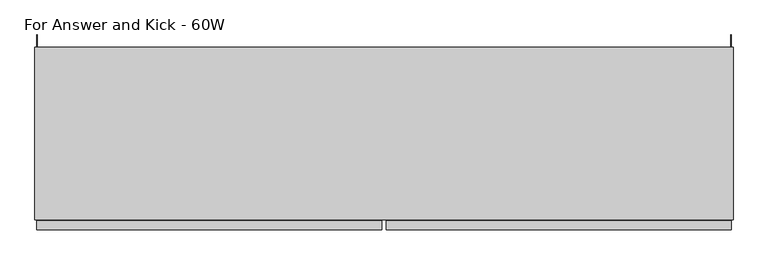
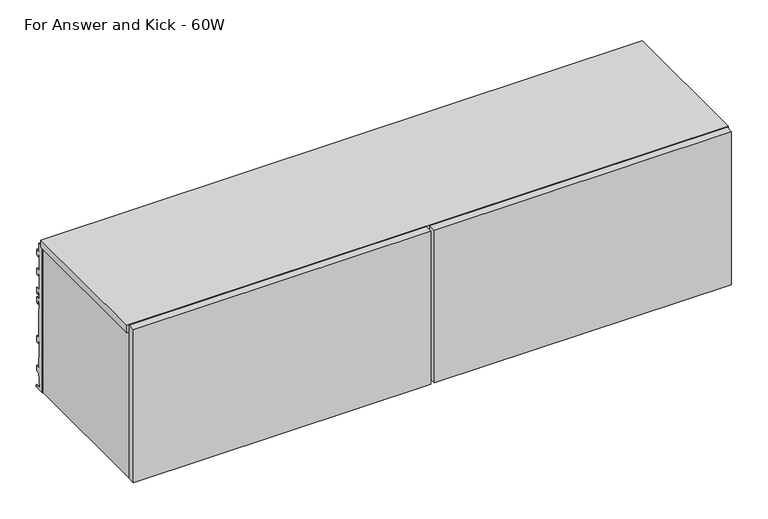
"""IFC4 building model written with IfcOpenShell, lengths in millimetres: furniture geometry, Steelcase - Universal Storage - Over the Case Bin - Flat Front : For Answer and Kick - 60W."""

from ifc_helpers import new_model, si_unit, frame, origin, place, context, project, spatial, polyline, outline, extrude, source, transform, mapped, element, save


def for_answer_and_kick_60w_b075a58c(model_context):
    return source(origin(), model_context, "Body", "SweptSolid", [
        extrude(outline(polyline([(0.0, 1657.096), (15.428165, 1657.096), (15.428165, 1635.9725192), (24.6737648, 1635.9725192), (24.6737648, 1620.2499324), (17.7141651, 1620.2499324), (17.7141651, 1627.4034202), (15.428165, 1627.4034202), (13.3707653, 1623.8398995), (13.3707653, 1584.7332049), (24.4959651, 1584.7332049), (24.4959651, 1569.0106181), (17.7141651, 1569.0106181), (17.7141651, 1576.1734076), (15.428165, 1576.1734076), (13.3707653, 1572.6099624), (13.3707653, 1533.4938907), (24.6737648, 1533.4938907), (24.6737648, 1517.7713038), (17.5768, 1517.7713038), (17.5768, 1524.9340934), (15.4248855, 1524.9340934), (13.3349998, 1521.3219111), (13.3349998, 1508.4166423), (24.6737648, 1508.4166423), (24.6737648, 1492.6940555), (17.5768, 1492.6940555), (17.5768, 1499.856845), (15.4205129, 1499.856845), (13.3933344, 1496.3530466), (13.3933344, 1483.6530466), (15.428165, 1479.2893385), (15.428165, 1403.8551467), (24.6737648, 1403.8551467), (24.6737648, 1388.1325599), (17.7141651, 1388.1325599), (17.7141651, 1395.2982562), (15.428165, 1395.2982562), (13.3306079, 1391.6651808), (13.3306079, 1353.5651808), (15.428165, 1349.9321054), (15.428165, 1325.1000701), (24.6737648, 1325.1000701), (24.6737648, 1309.3774833), (17.7141651, 1309.3774833), (17.7141651, 1316.5328605), (15.428165, 1316.5328605), (15.428165, 1303.5355433), (13.2046809, 1299.684356), (13.2046809, 1282.9679719), (11.2879653, 1282.9679719), (11.2879653, 1271.9303504), (26.4009645, 1271.9303504), (26.4009645, 1265.428), (0.0, 1265.428), (0.0, 1657.096)])), frame((1518.4882, 0.0, 0.0), z_axis=(1.0, 0.0, 0.0), x_axis=(0.0, 1.0, 0.0)), (0.0, 0.0, 1.0), 1.905),
        extrude(outline(polyline([(0.0, 1657.096), (15.428165, 1657.096), (15.428165, 1635.9725192), (24.6737648, 1635.9725192), (24.6737648, 1620.2499324), (17.7141651, 1620.2499324), (17.7141651, 1627.4034202), (15.428165, 1627.4034202), (13.3707653, 1623.8398995), (13.3707653, 1584.7332049), (24.4959651, 1584.7332049), (24.4959651, 1569.0106181), (17.7141651, 1569.0106181), (17.7141651, 1576.1734076), (15.428165, 1576.1734076), (13.3707653, 1572.6099624), (13.3707653, 1533.4938907), (24.6737648, 1533.4938907), (24.6737648, 1517.7713038), (17.5768, 1517.7713038), (17.5768, 1524.9340934), (15.4248855, 1524.9340934), (13.3349998, 1521.3219111), (13.3349998, 1508.4166423), (24.6737648, 1508.4166423), (24.6737648, 1492.6940555), (17.5768, 1492.6940555), (17.5768, 1499.856845), (15.4205129, 1499.856845), (13.3933344, 1496.3530466), (13.3933344, 1483.6530466), (15.428165, 1479.2893385), (15.428165, 1403.8551467), (24.6737648, 1403.8551467), (24.6737648, 1388.1325599), (17.7141651, 1388.1325599), (17.7141651, 1395.2982562), (15.428165, 1395.2982562), (13.3306079, 1391.6651808), (13.3306079, 1353.5651808), (15.428165, 1349.9321054), (15.428165, 1325.1000701), (24.6737648, 1325.1000701), (24.6737648, 1309.3774833), (17.7141651, 1309.3774833), (17.7141651, 1316.5328605), (15.428165, 1316.5328605), (15.428165, 1303.5355433), (13.2046809, 1299.684356), (13.2046809, 1282.9679719), (11.2879653, 1282.9679719), (11.2879653, 1271.9303504), (26.4009645, 1271.9303504), (26.4009645, 1265.428), (0.0, 1265.428), (0.0, 1657.096)])), frame((3.6068, 0.0, 0.0), z_axis=(1.0, 0.0, 0.0), x_axis=(0.0, 1.0, 0.0)), (0.0, 0.0, 1.0), 1.905),
        extrude(outline(polyline([(766.572, -379.476), (1519.5703, -379.476), (1519.5703, -398.526), (766.572, -398.526), (766.572, -379.476)])), frame((0.0, 0.0, 1266.8226746), z_axis=(0.0, 0.0, 1.0), x_axis=(1.0, 0.0, 0.0)), (0.0, 0.0, 1.0), 409.5773254),
        extrude(outline(polyline([(4.4448587, -379.476), (757.428, -379.476), (757.428, -398.526), (4.4448587, -398.526), (4.4448587, -379.476)])), frame((0.0, 0.0, 1266.8226746), z_axis=(0.0, 0.0, 1.0), x_axis=(1.0, 0.0, 0.0)), (0.0, 0.0, 1.0), 409.5773254),
        extrude(outline(polyline([(1524.0, -377.213238), (0.0, -377.213238), (0.0, 0.0), (1524.0, 0.0), (1524.0, -377.213238)])), frame((0.0, 0.0, 1657.35), z_axis=(0.0, 0.0, 1.0), x_axis=(1.0, 0.0, 0.0)), (0.0, 0.0, 1.0), 19.05),
        extrude(outline(polyline([(15.875, -377.213238), (5.5118, -377.213238), (5.5118, 0.0), (15.875, 0.0), (15.875, -377.213238)])), frame((0.0, 0.0, 1265.428), z_axis=(0.0, 0.0, 1.0), x_axis=(1.0, 0.0, 0.0)), (0.0, 0.0, 1.0), 391.6679457),
        extrude(outline(polyline([(1522.8568665, -377.213238), (1508.125, -377.213238), (1508.125, 0.0), (1522.8568665, 0.0), (1522.8568665, -377.213238)])), frame((0.0, 0.0, 1265.428), z_axis=(0.0, 0.0, 1.0), x_axis=(1.0, 0.0, 0.0)), (0.0, 0.0, 1.0), 391.6679457),
        extrude(outline(polyline([(-35.4584098, 1372.819257), (-27.0763996, 1372.819257), (-27.0763996, 1360.1191601), (-33.4264117, 1360.1191601), (-33.4264117, 1323.1622589), (-27.0763996, 1323.1622589), (-27.0763996, 1265.428), (-35.4584098, 1265.428), (-35.4584098, 1293.054213), (-46.1263996, 1293.054213), (-46.1263996, 1268.1875622), (-59.9694137, 1268.1875622), (-59.9694137, 1294.8575912), (-332.8542818, 1294.8575912), (-332.8542818, 1268.1875622), (-377.3042823, 1268.1875622), (-377.3042823, 1310.7072052), (-35.4584098, 1310.7072052), (-35.4584098, 1372.819257)])), frame((15.875, 0.0, 0.0), z_axis=(1.0, 0.0, 0.0), x_axis=(0.0, 1.0, 0.0)), (0.0, 0.0, 1.0), 1492.25),
    ])


if __name__ == "__main__":
    model = new_model("IFC4")
    model_context = context("Model", 3, world=origin())
    ifc_project = project(units=[si_unit("LENGTHUNIT", "METRE", prefix="MILLI")], contexts=[model_context])
    site = spatial("IfcSite", under=ifc_project)
    building = spatial("IfcBuilding", under=site)
    placement = place(None, origin())
    for_answer_and_kick_60w_shape = for_answer_and_kick_60w_b075a58c(model_context)
    element("IfcFurniture", 1, ObjectType="Steelcase - Universal Storage - Over the Case Bin - Flat Front : For Answer and Kick - 60W", at=placement, inside=building, context=model_context, shape_type="MappedRepresentation", body=[
        mapped(for_answer_and_kick_60w_shape, transform((0.0, 0.0, 0.0), x_axis=(1.0, 0.0, 0.0), y_axis=(0.0, 1.0, 0.0), z_axis=(0.0, 0.0, 1.0))),
    ])
    save(model, "model.ifc")
